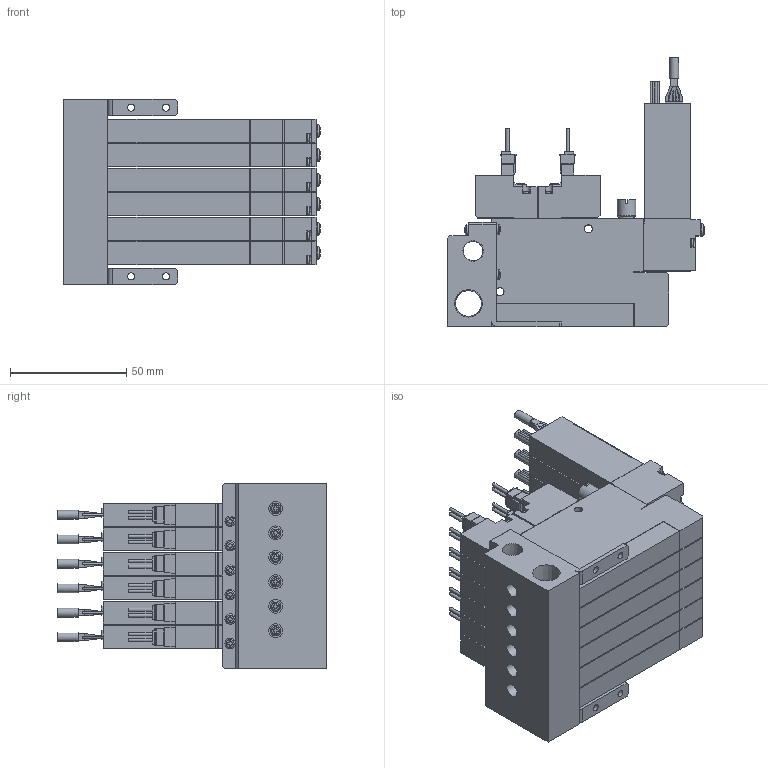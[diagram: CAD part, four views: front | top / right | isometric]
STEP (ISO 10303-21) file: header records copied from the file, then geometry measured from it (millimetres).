
FILE_DESCRIPTION(('STEP AP203'),'1');
FILE_NAME('10C5SC606_3D.stp','2024-09-04T23:11:15',(' '),(' '),'Spatial InterOp 3D',' ',' ');
FILE_SCHEMA(('CONFIG_CONTROL_DESIGN'));
Length unit declared in the file: millimetre
Products named in the file (5): BSC1M※※10C5SC606; Solenoid valve S; Pressure Sensor 10; Unit-C; BaseMC60R
Assembly tree (19 placements, depth 2):
  BSC1M※※10C5SC606
    Solenoid valve S  x6
    Pressure Sensor 10  x6
    Unit-C  x6
    BaseMC60R
Bounding box: 110.35 x 115.8 x 79.5 mm (x, y, z)
Volume: 394653 mm3; surface area: 136565.6 mm2
Topology: 19 solids, 19 shells, 2637 faces, 7095 edges, 4686 vertices
Faces by surface type: plane 2027, cylinder 496, cone 46, sphere 34, torus 34
Full cylindrical faces by diameter (mm): 0.9 x24, 1.4 x24, 2.5 x12, 3 x28, 3.5 x48, 3.8 x6, 4 x6, 4.134 x12, 4.5 x16, 5.5 x12, 6 x6, 7 x12, 8 x6, 8.422 x1, 11.233 x1
Entity records: 21809 total; most frequent: CARTESIAN_POINT 4971, DIRECTION 3389, ORIENTED_EDGE 3238, EDGE_CURVE 1619, AXIS2_PLACEMENT_3D 1152, VERTEX_POINT 1144, LINE 1085, VECTOR 1085
